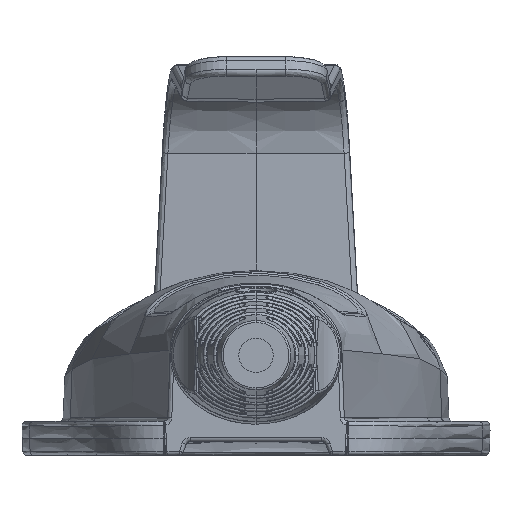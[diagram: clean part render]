
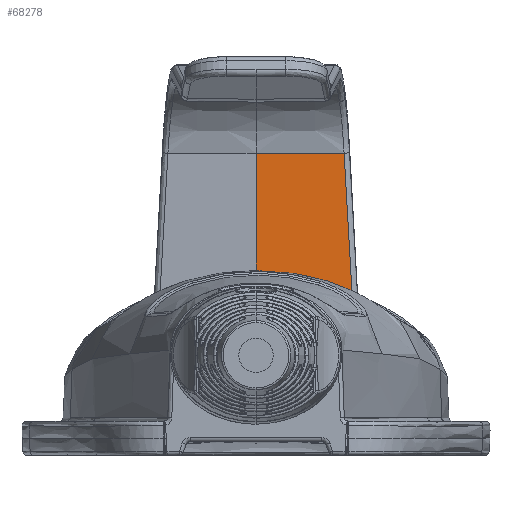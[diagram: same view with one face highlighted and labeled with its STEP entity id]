
A CAD part, front view. The second image highlights one B-rep face of the part: STEP entity #68278.
In plain terms, the highlighted planar face has unit normal (0.018, -1, -0.017).
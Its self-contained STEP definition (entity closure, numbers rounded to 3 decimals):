
#64450=CARTESIAN_POINT('',(12.803,-32.712,
38.924));
#64451=CARTESIAN_POINT('',(12.882,-32.686,
37.526));
#64452=CARTESIAN_POINT('',(13.035,-32.636,
34.837));
#64453=CARTESIAN_POINT('',(13.248,-32.567,
31.065));
#64454=CARTESIAN_POINT('',(13.437,-32.505,
27.722));
#64455=CARTESIAN_POINT('',(13.616,-32.447,
24.556));
#64456=CARTESIAN_POINT('',(13.8,-32.387,
21.302));
#64457=CARTESIAN_POINT('',(13.936,-32.342,
18.882));
#64458=CARTESIAN_POINT('',(14.007,-32.319,
17.626));
#64460=CARTESIAN_POINT('',(0.,-32.593,
19.303));
#64461=CARTESIAN_POINT('',(1.025,-32.575,
19.305));
#64462=CARTESIAN_POINT('',(2.99,-32.54,
19.257));
#64463=CARTESIAN_POINT('',(5.69,-32.489,
19.066));
#64464=CARTESIAN_POINT('',(8.112,-32.442,
18.787));
#64465=CARTESIAN_POINT('',(10.29,-32.398,
18.445));
#64466=CARTESIAN_POINT('',(12.254,-32.357,
18.056));
#64467=CARTESIAN_POINT('',(13.444,-32.331,
17.771));
#64468=CARTESIAN_POINT('',(14.007,-32.319,
17.626));
#64470=DIRECTION('',(0.,0.017,-1.));
#64471=VECTOR('',#64470,19.62);
#64472=CARTESIAN_POINT('',(0.,-32.935,38.92));
#64473=LINE('',#64472,#64471);
#64474=DIRECTION('',(-1.,-0.017,0.));
#64475=VECTOR('',#64474,12.805);
#64476=CARTESIAN_POINT('',(12.803,-32.712,
38.924));
#64477=LINE('',#64476,#64475);
#67164=CARTESIAN_POINT('',(0.,-32.935,
38.92));
#67165=VERTEX_POINT('',#67164);
#67168=CARTESIAN_POINT('',(0.,-32.593,
19.303));
#67169=VERTEX_POINT('',#67168);
#67170=VERTEX_POINT('',#64450);
#67171=VERTEX_POINT('',#64458);
#68265=CARTESIAN_POINT('',(0.,-32.935,38.92));
#68266=DIRECTION('',(-0.017,1.,0.017));
#68267=DIRECTION('',(0.,-0.017,1.));
#68268=AXIS2_PLACEMENT_3D('',#68265,#68266,#68267);
#68269=PLANE('',#68268);
#68270=ORIENTED_EDGE('',*,*,#68256,.T.);
#68271=ORIENTED_EDGE('',*,*,#67955,.F.);
#68273=ORIENTED_EDGE('',*,*,#68272,.F.);
#68275=ORIENTED_EDGE('',*,*,#68274,.F.);
#68276=EDGE_LOOP('',(#68270,#68271,#68273,#68275));
#68277=FACE_OUTER_BOUND('',#68276,.F.);
#64459=B_SPLINE_CURVE_WITH_KNOTS('',3,(#64450,#64451,#64452,#64453,#64454,
#64455,#64456,#64457,#64458),.UNSPECIFIED.,.F.,.F.,(4,1,1,1,1,1,4),(0.,
0.167,0.333,0.5,0.667,0.833,
1.),.UNSPECIFIED.);
#64469=B_SPLINE_CURVE_WITH_KNOTS('',3,(#64460,#64461,#64462,#64463,#64464,
#64465,#64466,#64467,#64468),.UNSPECIFIED.,.F.,.F.,(4,1,1,1,1,1,4),(0.,
0.167,0.333,0.5,0.667,0.833,
1.),.UNSPECIFIED.);
#67955=EDGE_CURVE('',#67169,#67171,#64469,.T.);
#68256=EDGE_CURVE('',#67170,#67171,#64459,.T.);
#68272=EDGE_CURVE('',#67165,#67169,#64473,.T.);
#68274=EDGE_CURVE('',#67170,#67165,#64477,.T.);
#68278=ADVANCED_FACE('',(#68277),#68269,.F.);
